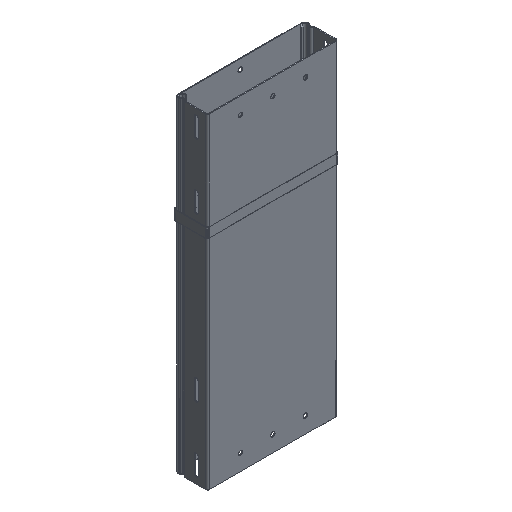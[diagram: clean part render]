
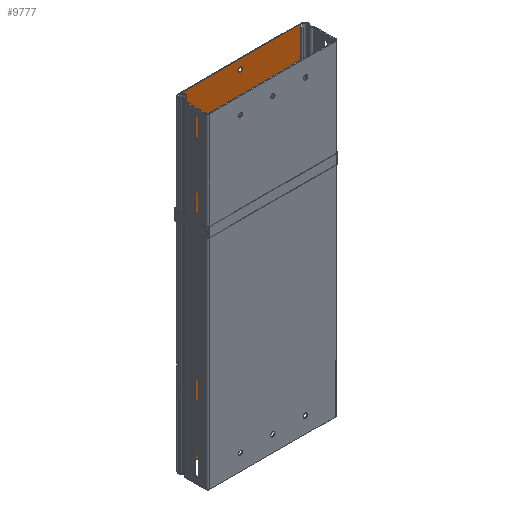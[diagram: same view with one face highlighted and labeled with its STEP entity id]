
A CAD part, isometric view. The second image highlights one B-rep face of the part: STEP entity #9777.
In plain terms, the highlighted planar face has unit normal (0, -1, 0).
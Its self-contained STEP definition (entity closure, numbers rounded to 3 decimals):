
#26 = EDGE_LOOP ( 'NONE', ( #6091, #5195 ) ) ;
#30 = ORIENTED_EDGE ( 'NONE', *, *, #4693, .F. ) ;
#289 = EDGE_CURVE ( 'NONE', #807, #5782, #7110, .T. ) ;
#599 = VERTEX_POINT ( 'NONE', #6223 ) ;
#620 = DIRECTION ( 'NONE',  ( 0., 0., -1. ) ) ;
#807 = VERTEX_POINT ( 'NONE', #3263 ) ;
#971 = CARTESIAN_POINT ( 'NONE',  ( 0., 0., 235. ) ) ;
#1118 = DIRECTION ( 'NONE',  ( 0., 1., 0. ) ) ;
#1599 = CARTESIAN_POINT ( 'NONE',  ( 0., 0., -235. ) ) ;
#1822 = EDGE_CURVE ( 'NONE', #11862, #7738, #5745, .T. ) ;
#1920 = DIRECTION ( 'NONE',  ( -1., 0., 0. ) ) ;
#2076 = VECTOR ( 'NONE', #8769, 1000. ) ;
#2312 = VECTOR ( 'NONE', #2730, 1000. ) ;
#2343 = AXIS2_PLACEMENT_3D ( 'NONE', #4065, #10674, #5012 ) ;
#2365 = ORIENTED_EDGE ( 'NONE', *, *, #5126, .T. ) ;
#2430 = CARTESIAN_POINT ( 'NONE',  ( 3.25, 0., 235. ) ) ;
#2562 = DIRECTION ( 'NONE',  ( -1., 0., 0. ) ) ;
#2730 = DIRECTION ( 'NONE',  ( 0., 0., -1. ) ) ;
#3000 = EDGE_LOOP ( 'NONE', ( #6087, #4217 ) ) ;
#3088 = CARTESIAN_POINT ( 'NONE',  ( 0., 0., -235. ) ) ;
#3263 = CARTESIAN_POINT ( 'NONE',  ( -94.325, 0., -250. ) ) ;
#3506 = CARTESIAN_POINT ( 'NONE',  ( 94.325, 0., -250. ) ) ;
#3798 = LINE ( 'NONE', #7252, #10743 ) ;
#3895 = CARTESIAN_POINT ( 'NONE',  ( -94.325, 0., 250. ) ) ;
#3965 = AXIS2_PLACEMENT_3D ( 'NONE', #3088, #9695, #4052 ) ;
#4052 = DIRECTION ( 'NONE',  ( -1., 0., 0. ) ) ;
#4065 = CARTESIAN_POINT ( 'NONE',  ( 0., 0., 235. ) ) ;
#4217 = ORIENTED_EDGE ( 'NONE', *, *, #11918, .T. ) ;
#4330 = EDGE_CURVE ( 'NONE', #11291, #6825, #7505, .T. ) ;
#4473 = EDGE_LOOP ( 'NONE', ( #6261, #30, #8479, #2365 ) ) ;
#4534 = EDGE_CURVE ( 'NONE', #6825, #11291, #6327, .T. ) ;
#4586 = CARTESIAN_POINT ( 'NONE',  ( 94.325, 0., 250. ) ) ;
#4693 = EDGE_CURVE ( 'NONE', #7625, #5782, #4841, .T. ) ;
#4841 = LINE ( 'NONE', #4586, #2312 ) ;
#4897 = PLANE ( 'NONE',  #8193 ) ;
#4945 = FACE_BOUND ( 'NONE', #26, .T. ) ;
#5012 = DIRECTION ( 'NONE',  ( -1., 0., 0. ) ) ;
#5126 = EDGE_CURVE ( 'NONE', #599, #807, #3798, .T. ) ;
#5195 = ORIENTED_EDGE ( 'NONE', *, *, #4330, .T. ) ;
#5745 = CIRCLE ( 'NONE', #2343, 3.25 ) ;
#5782 = VERTEX_POINT ( 'NONE', #3506 ) ;
#5798 = VECTOR ( 'NONE', #10493, 1000. ) ;
#6087 = ORIENTED_EDGE ( 'NONE', *, *, #1822, .T. ) ;
#6091 = ORIENTED_EDGE ( 'NONE', *, *, #4534, .T. ) ;
#6223 = CARTESIAN_POINT ( 'NONE',  ( -94.325, 0., 250. ) ) ;
#6261 = ORIENTED_EDGE ( 'NONE', *, *, #289, .T. ) ;
#6327 = CIRCLE ( 'NONE', #7537, 3.25 ) ;
#6488 = EDGE_CURVE ( 'NONE', #599, #7625, #8324, .T. ) ;
#6697 = AXIS2_PLACEMENT_3D ( 'NONE', #971, #7609, #1920 ) ;
#6784 = CARTESIAN_POINT ( 'NONE',  ( -94.325, 0., 250. ) ) ;
#6825 = VERTEX_POINT ( 'NONE', #9168 ) ;
#6923 = CARTESIAN_POINT ( 'NONE',  ( 94.325, 0., 250. ) ) ;
#7110 = LINE ( 'NONE', #8673, #2076 ) ;
#7152 = FACE_OUTER_BOUND ( 'NONE', #4473, .T. ) ;
#7252 = CARTESIAN_POINT ( 'NONE',  ( -94.325, 0., 250. ) ) ;
#7505 = CIRCLE ( 'NONE', #3965, 3.25 ) ;
#7537 = AXIS2_PLACEMENT_3D ( 'NONE', #1599, #8233, #2562 ) ;
#7609 = DIRECTION ( 'NONE',  ( 0., 1., 0. ) ) ;
#7625 = VERTEX_POINT ( 'NONE', #6923 ) ;
#7738 = VERTEX_POINT ( 'NONE', #2430 ) ;
#7741 = DIRECTION ( 'NONE',  ( -1., 0., 0. ) ) ;
#8193 = AXIS2_PLACEMENT_3D ( 'NONE', #6784, #1118, #7741 ) ;
#8233 = DIRECTION ( 'NONE',  ( 0., 1., 0. ) ) ;
#8324 = LINE ( 'NONE', #3895, #5798 ) ;
#8479 = ORIENTED_EDGE ( 'NONE', *, *, #6488, .F. ) ;
#8673 = CARTESIAN_POINT ( 'NONE',  ( -94.325, 0., -250. ) ) ;
#8769 = DIRECTION ( 'NONE',  ( 1., 0., 0. ) ) ;
#9168 = CARTESIAN_POINT ( 'NONE',  ( -3.25, 0., -235. ) ) ;
#9541 = CARTESIAN_POINT ( 'NONE',  ( 3.25, 0., -235. ) ) ;
#9656 = FACE_BOUND ( 'NONE', #3000, .T. ) ;
#9695 = DIRECTION ( 'NONE',  ( 0., 1., 0. ) ) ;
#9777 = ADVANCED_FACE ( 'NONE', ( #9656, #4945, #7152 ), #4897, .F. ) ;
#10345 = CIRCLE ( 'NONE', #6697, 3.25 ) ;
#10493 = DIRECTION ( 'NONE',  ( 1., 0., 0. ) ) ;
#10674 = DIRECTION ( 'NONE',  ( 0., 1., 0. ) ) ;
#10743 = VECTOR ( 'NONE', #620, 1000. ) ;
#11196 = CARTESIAN_POINT ( 'NONE',  ( -3.25, 0., 235. ) ) ;
#11291 = VERTEX_POINT ( 'NONE', #9541 ) ;
#11862 = VERTEX_POINT ( 'NONE', #11196 ) ;
#11918 = EDGE_CURVE ( 'NONE', #7738, #11862, #10345, .T. ) ;
